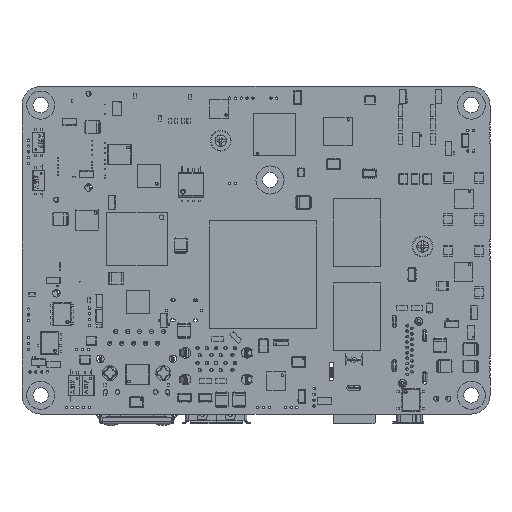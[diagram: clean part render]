
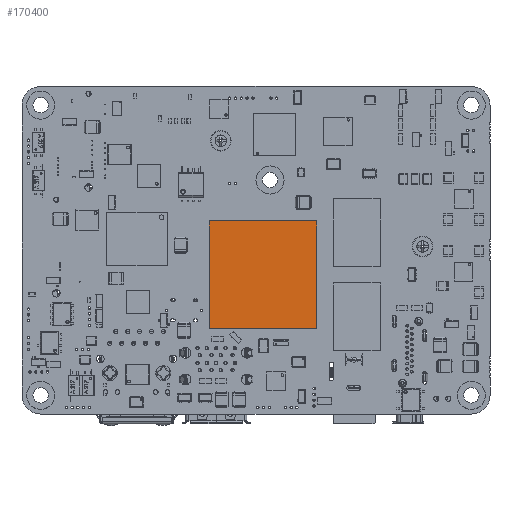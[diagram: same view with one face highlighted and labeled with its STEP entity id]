
A CAD part, top view. The second image highlights one B-rep face of the part: STEP entity #170400.
In plain terms, the highlighted planar face has unit normal (0, 0, 1).
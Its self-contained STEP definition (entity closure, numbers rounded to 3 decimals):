
#170269=DIRECTION('',(0.,-1.,0.));
#170270=VECTOR('',#170269,23.);
#170271=CARTESIAN_POINT('',(40.025,41.25,3.01));
#170272=LINE('',#170271,#170270);
#170273=DIRECTION('',(-1.,0.,0.));
#170274=VECTOR('',#170273,23.);
#170275=CARTESIAN_POINT('',(63.025,41.25,3.01));
#170276=LINE('',#170275,#170274);
#170277=DIRECTION('',(0.,1.,0.));
#170278=VECTOR('',#170277,23.);
#170279=CARTESIAN_POINT('',(63.025,18.25,3.01));
#170280=LINE('',#170279,#170278);
#170281=DIRECTION('',(1.,0.,0.));
#170282=VECTOR('',#170281,23.);
#170283=CARTESIAN_POINT('',(40.025,18.25,3.01));
#170284=LINE('',#170283,#170282);
#170285=CARTESIAN_POINT('',(40.025,41.25,3.01));
#170287=VERTEX_POINT('',#170285);
#170289=CARTESIAN_POINT('',(40.025,18.25,3.01));
#170290=VERTEX_POINT('',#170289);
#170293=CARTESIAN_POINT('',(63.025,18.25,3.01));
#170294=VERTEX_POINT('',#170293);
#170297=CARTESIAN_POINT('',(63.025,41.25,3.01));
#170298=VERTEX_POINT('',#170297);
#170389=CARTESIAN_POINT('',(40.025,41.25,3.01));
#170390=DIRECTION('',(0.,0.,-1.));
#170391=DIRECTION('',(-1.,0.,0.));
#170392=AXIS2_PLACEMENT_3D('',#170389,#170390,#170391);
#170393=PLANE('',#170392);
#170394=ORIENTED_EDGE('',*,*,#170308,.F.);
#170395=ORIENTED_EDGE('',*,*,#170331,.F.);
#170396=ORIENTED_EDGE('',*,*,#170353,.F.);
#170397=ORIENTED_EDGE('',*,*,#170374,.F.);
#170398=EDGE_LOOP('',(#170394,#170395,#170396,#170397));
#170399=FACE_OUTER_BOUND('',#170398,.F.);
#170308=EDGE_CURVE('',#170287,#170290,#170272,.T.);
#170331=EDGE_CURVE('',#170298,#170287,#170276,.T.);
#170353=EDGE_CURVE('',#170294,#170298,#170280,.T.);
#170374=EDGE_CURVE('',#170290,#170294,#170284,.T.);
#170400=ADVANCED_FACE('',(#170399),#170393,.F.);
